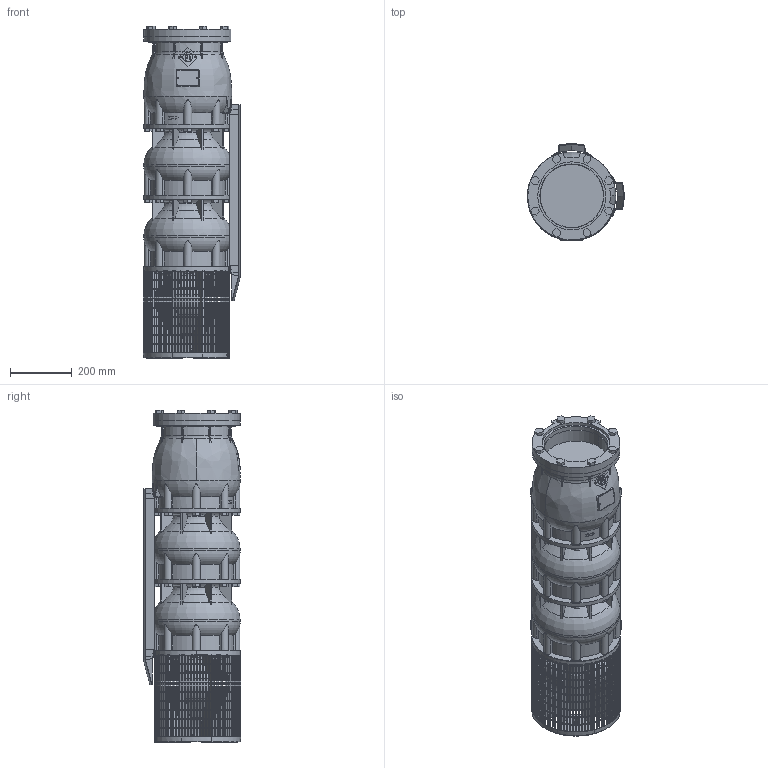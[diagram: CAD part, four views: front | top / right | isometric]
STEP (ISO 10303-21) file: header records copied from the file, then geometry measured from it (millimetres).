
FILE_DESCRIPTION(/* description */ ('-'),/* implementation_level */ '2;1');
FILE_NAME(/* name */ 'VSI454-2-2C_WF_M10-50_SME',/* time_stamp */ '2026-01-21T14:25:35+01:00',/* author */ ('Simonelli M.'),/* organization */ ('Franklin Electric Srl'),/* preprocessor_version */ 'ST-DEVELOPER v18.102',/* originating_system */ 'Solid Edge',/* authorisation */ 'Unknown');
FILE_SCHEMA (('AUTOMOTIVE_DESIGN {1 0 10303 214 3 1 1}'));
Products named in the file (12): VSI454-2-2C_WF_M10-50_SME; VSI344-454_testata; VSI344-454_supporto; VSI344-454_filtro_A; VSI344-454_filtro_B; VSI344-454_terminale_top_copricavo_medio; VSI344-454_terminale_bottom_copricavo_medio; MID 454-2; VSI454_diffusore; M5X8_UNI7687; VSI184-254_giunto_10×10; VSI344-454_flangia_testata
Assembly tree (26 placements, depth 2):
  VSI454-2-2C_WF_M10-50_SME
    VSI344-454_testata
    VSI344-454_supporto
    VSI344-454_filtro_A
    VSI344-454_filtro_B
    VSI344-454_terminale_top_copricavo_medio  x2
    VSI344-454_terminale_bottom_copricavo_medio  x2
    MID 454-2  x2
    VSI454_diffusore  x2
    M5X8_UNI7687  x12
    VSI184-254_giunto_10×10
    VSI344-454_flangia_testata
Bounding box: 314.3 x 314.3 x 1075 mm (x, y, z)
Volume: 40890217.9 mm3; surface area: 2633259.2 mm2
Topology: 91 solids, 91 shells, 4129 faces, 11601 edges, 7703 vertices
Faces by surface type: plane 3360, cylinder 486, torus 175, cone 81, bspline 15, sphere 12
Full cylindrical faces by diameter (mm): 5 x12, 16 x8, 35 x1, 65 x1, 69 x1, 150 x1, 207 x1, 220.5 x1, 284.507 x2, 285 x2
Entity records: 124599 total; most frequent: CARTESIAN_POINT 28075, ORIENTED_EDGE 20264, DIRECTION 19370, EDGE_CURVE 10132, VERTEX_POINT 6757, AXIS2_PLACEMENT_3D 6543, LINE 6284, VECTOR 6284
